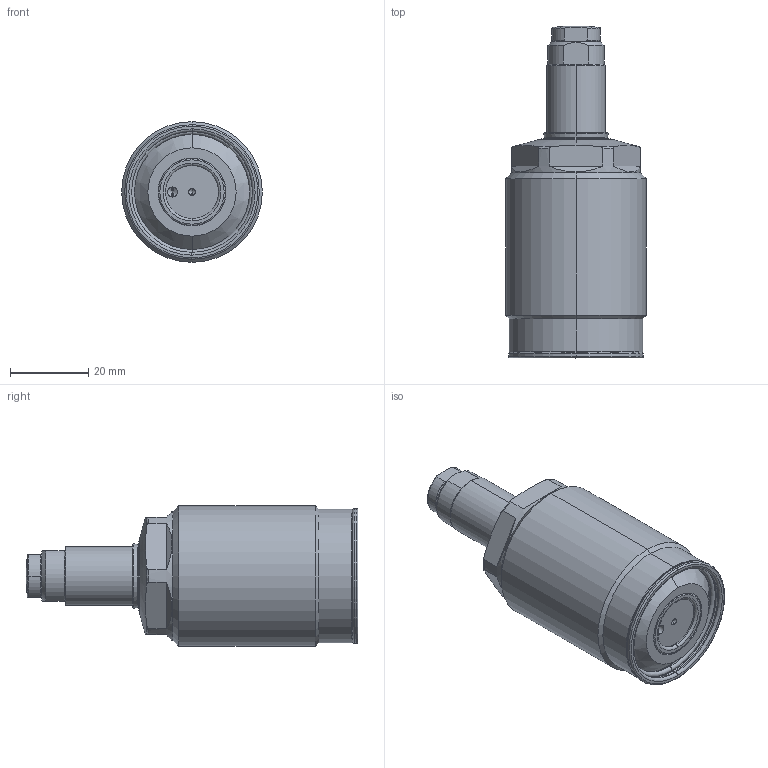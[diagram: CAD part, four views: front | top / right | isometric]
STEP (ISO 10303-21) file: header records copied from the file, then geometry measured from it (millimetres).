
FILE_DESCRIPTION(/* description */ (''),/* implementation_level */ '2;1');
FILE_NAME(/* name */ 'TSS36-Q.stp',/* time_stamp */ '2026-02-04T13:10:50+08:00',/* author */ (''),/* organization */ (''),/* preprocessor_version */ 'ST-DEVELOPER v16.7',/* originating_system */ 'SIEMENS PLM Software NX 12.0',/* authorisation */ '');
FILE_SCHEMA (('AUTOMOTIVE_DESIGN { 1 0 10303 214 3 1 1 1 }'));
Length unit declared in the file: millimetre
Products named in the file (7): XLC-M10_Oring5925; XLC-M10_contactbolt9445; TSS36-Q-02; TSS36-Q-01; AS568-026(90); TSS36-Q-03; TSS36-Q_stp
Assembly tree (6 placements, depth 3):
  TSS36-Q_stp
    AS568-026(90)
    TSS36-Q-01
    TSS36-Q-02
    TSS36-Q-03
      XLC-M10_contactbolt9445
      XLC-M10_Oring5925
Bounding box: 36 x 85 x 36 mm (x, y, z)
Volume: 54091.3 mm3; surface area: 12612.5 mm2
Topology: 5 solids, 5 shells, 371 faces, 778 edges, 424 vertices
Faces by surface type: cone 234, torus 58, cylinder 41, plane 36, sphere 2
Entity records: 10187 total; most frequent: CARTESIAN_POINT 1978, DIRECTION 1915, ORIENTED_EDGE 1548, AXIS2_PLACEMENT_3D 807, EDGE_CURVE 774, CIRCLE 429, VERTEX_POINT 424, EDGE_LOOP 386
